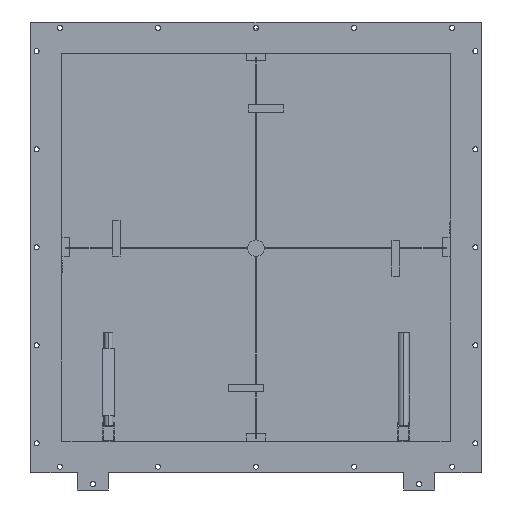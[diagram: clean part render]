
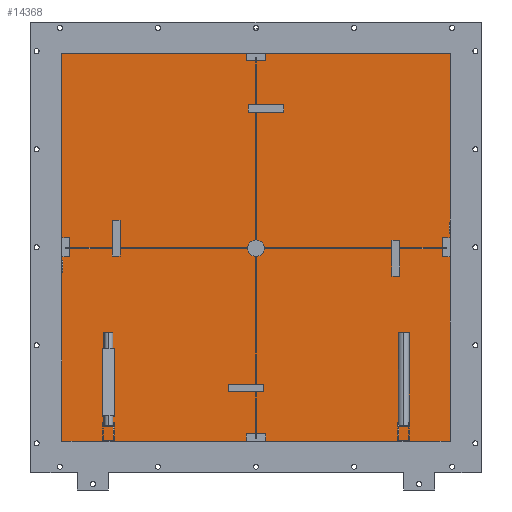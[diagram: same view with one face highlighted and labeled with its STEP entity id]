
A CAD part, front view. The second image highlights one B-rep face of the part: STEP entity #14368.
In plain terms, the highlighted planar face has unit normal (0, -1, 0).
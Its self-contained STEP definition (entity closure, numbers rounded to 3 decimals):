
#2646=DIRECTION('',(0.,0.,1.));
#2647=VECTOR('',#2646,1036.);
#2648=CARTESIAN_POINT('',(518.,70.,-520.5));
#2649=LINE('',#2648,#2647);
#2654=CARTESIAN_POINT('',(0.,70.,-2.5));
#2655=DIRECTION('',(0.,1.,0.));
#2656=DIRECTION('',(0.,0.,1.));
#2657=AXIS2_PLACEMENT_3D('',#2654,#2655,#2656);
#2659=CARTESIAN_POINT('',(0.,70.,-2.5));
#2660=DIRECTION('',(0.,1.,0.));
#2661=DIRECTION('',(0.,0.,-1.));
#2662=AXIS2_PLACEMENT_3D('',#2659,#2660,#2661);
#2664=DIRECTION('',(1.,0.,0.));
#2665=VECTOR('',#2664,20.);
#2666=CARTESIAN_POINT('',(-370.,70.,-22.5));
#2667=LINE('',#2666,#2665);
#2668=DIRECTION('',(0.,0.,1.));
#2669=VECTOR('',#2668,92.);
#2670=CARTESIAN_POINT('',(-350.,70.,-22.5));
#2671=LINE('',#2670,#2669);
#2672=DIRECTION('',(-1.,0.,0.));
#2673=VECTOR('',#2672,20.);
#2674=CARTESIAN_POINT('',(-350.,70.,69.5));
#2675=LINE('',#2674,#2673);
#2676=DIRECTION('',(0.,0.,-1.));
#2677=VECTOR('',#2676,92.);
#2678=CARTESIAN_POINT('',(-370.,70.,69.5));
#2679=LINE('',#2678,#2677);
#2680=DIRECTION('',(0.,0.,-1.));
#2681=VECTOR('',#2680,20.);
#2682=CARTESIAN_POINT('',(-20.,70.,367.5));
#2683=LINE('',#2682,#2681);
#2684=DIRECTION('',(1.,0.,0.));
#2685=VECTOR('',#2684,92.);
#2686=CARTESIAN_POINT('',(-20.,70.,347.5));
#2687=LINE('',#2686,#2685);
#2688=DIRECTION('',(0.,0.,1.));
#2689=VECTOR('',#2688,20.);
#2690=CARTESIAN_POINT('',(72.,70.,347.5));
#2691=LINE('',#2690,#2689);
#2692=DIRECTION('',(-1.,0.,0.));
#2693=VECTOR('',#2692,92.);
#2694=CARTESIAN_POINT('',(72.,70.,367.5));
#2695=LINE('',#2694,#2693);
#2696=DIRECTION('',(0.,0.,-1.));
#2697=VECTOR('',#2696,92.);
#2698=CARTESIAN_POINT('',(350.,70.,17.5));
#2699=LINE('',#2698,#2697);
#2700=DIRECTION('',(1.,0.,0.));
#2701=VECTOR('',#2700,20.);
#2702=CARTESIAN_POINT('',(350.,70.,-74.5));
#2703=LINE('',#2702,#2701);
#2704=DIRECTION('',(0.,0.,1.));
#2705=VECTOR('',#2704,92.);
#2706=CARTESIAN_POINT('',(370.,70.,-74.5));
#2707=LINE('',#2706,#2705);
#2708=DIRECTION('',(-1.,0.,0.));
#2709=VECTOR('',#2708,20.);
#2710=CARTESIAN_POINT('',(370.,70.,17.5));
#2711=LINE('',#2710,#2709);
#2712=DIRECTION('',(-1.,0.,0.));
#2713=VECTOR('',#2712,92.);
#2714=CARTESIAN_POINT('',(20.,70.,-352.5));
#2715=LINE('',#2714,#2713);
#2716=DIRECTION('',(0.,0.,-1.));
#2717=VECTOR('',#2716,20.);
#2718=CARTESIAN_POINT('',(-72.,70.,-352.5));
#2719=LINE('',#2718,#2717);
#2720=DIRECTION('',(1.,0.,0.));
#2721=VECTOR('',#2720,92.);
#2722=CARTESIAN_POINT('',(-72.,70.,-372.5));
#2723=LINE('',#2722,#2721);
#2724=DIRECTION('',(0.,0.,1.));
#2725=VECTOR('',#2724,20.);
#2726=CARTESIAN_POINT('',(20.,70.,-372.5));
#2727=LINE('',#2726,#2725);
#2728=DIRECTION('',(1.,0.,0.));
#2729=VECTOR('',#2728,1036.);
#2730=CARTESIAN_POINT('',(-518.,70.,-520.5));
#2731=LINE('',#2730,#2729);
#2736=DIRECTION('',(0.,0.,-1.));
#2737=VECTOR('',#2736,1036.);
#2738=CARTESIAN_POINT('',(-518.,70.,515.5));
#2739=LINE('',#2738,#2737);
#2744=DIRECTION('',(-1.,0.,0.));
#2745=VECTOR('',#2744,1036.);
#2746=CARTESIAN_POINT('',(518.,70.,515.5));
#2747=LINE('',#2746,#2745);
#10606=CARTESIAN_POINT('',(518.,70.,-520.5));
#10607=CARTESIAN_POINT('',(518.,70.,515.5));
#10608=VERTEX_POINT('',#10606);
#10609=VERTEX_POINT('',#10607);
#10610=CARTESIAN_POINT('',(-518.,70.,-520.5));
#10611=VERTEX_POINT('',#10610);
#10612=CARTESIAN_POINT('',(-518.,70.,515.5));
#10613=VERTEX_POINT('',#10612);
#10842=CARTESIAN_POINT('',(0.,70.,18.7));
#10843=CARTESIAN_POINT('',(0.,70.,-23.7));
#10844=VERTEX_POINT('',#10842);
#10845=VERTEX_POINT('',#10843);
#10880=CARTESIAN_POINT('',(-370.,70.,-22.5));
#10881=CARTESIAN_POINT('',(-350.,70.,-22.5));
#10882=VERTEX_POINT('',#10880);
#10883=VERTEX_POINT('',#10881);
#10884=CARTESIAN_POINT('',(-350.,70.,69.5));
#10885=VERTEX_POINT('',#10884);
#10886=CARTESIAN_POINT('',(-370.,70.,69.5));
#10887=VERTEX_POINT('',#10886);
#10888=CARTESIAN_POINT('',(-20.,70.,367.5));
#10889=CARTESIAN_POINT('',(-20.,70.,347.5));
#10890=VERTEX_POINT('',#10888);
#10891=VERTEX_POINT('',#10889);
#10892=CARTESIAN_POINT('',(72.,70.,347.5));
#10893=VERTEX_POINT('',#10892);
#10894=CARTESIAN_POINT('',(72.,70.,367.5));
#10895=VERTEX_POINT('',#10894);
#10896=CARTESIAN_POINT('',(350.,70.,17.5));
#10897=CARTESIAN_POINT('',(350.,70.,-74.5));
#10898=VERTEX_POINT('',#10896);
#10899=VERTEX_POINT('',#10897);
#10900=CARTESIAN_POINT('',(370.,70.,-74.5));
#10901=VERTEX_POINT('',#10900);
#10902=CARTESIAN_POINT('',(370.,70.,17.5));
#10903=VERTEX_POINT('',#10902);
#10904=CARTESIAN_POINT('',(20.,70.,-352.5));
#10905=CARTESIAN_POINT('',(-72.,70.,-352.5));
#10906=VERTEX_POINT('',#10904);
#10907=VERTEX_POINT('',#10905);
#10908=CARTESIAN_POINT('',(-72.,70.,-372.5));
#10909=VERTEX_POINT('',#10908);
#10910=CARTESIAN_POINT('',(20.,70.,-372.5));
#10911=VERTEX_POINT('',#10910);
#14308=CARTESIAN_POINT('',(0.,70.,0.));
#14309=DIRECTION('',(0.,1.,0.));
#14310=DIRECTION('',(1.,0.,0.));
#14311=AXIS2_PLACEMENT_3D('',#14308,#14309,#14310);
#14312=PLANE('',#14311);
#14313=ORIENTED_EDGE('',*,*,#14298,.F.);
#14315=ORIENTED_EDGE('',*,*,#14314,.F.);
#14317=ORIENTED_EDGE('',*,*,#14316,.F.);
#14319=ORIENTED_EDGE('',*,*,#14318,.F.);
#14320=EDGE_LOOP('',(#14313,#14315,#14317,#14319));
#14321=FACE_OUTER_BOUND('',#14320,.F.);
#14323=ORIENTED_EDGE('',*,*,#14322,.F.);
#14325=ORIENTED_EDGE('',*,*,#14324,.F.);
#14326=EDGE_LOOP('',(#14323,#14325));
#14327=FACE_BOUND('',#14326,.F.);
#14329=ORIENTED_EDGE('',*,*,#14328,.T.);
#14331=ORIENTED_EDGE('',*,*,#14330,.T.);
#14333=ORIENTED_EDGE('',*,*,#14332,.T.);
#14335=ORIENTED_EDGE('',*,*,#14334,.T.);
#14336=EDGE_LOOP('',(#14329,#14331,#14333,#14335));
#14337=FACE_BOUND('',#14336,.F.);
#14339=ORIENTED_EDGE('',*,*,#14338,.T.);
#14341=ORIENTED_EDGE('',*,*,#14340,.T.);
#14343=ORIENTED_EDGE('',*,*,#14342,.T.);
#14345=ORIENTED_EDGE('',*,*,#14344,.T.);
#14346=EDGE_LOOP('',(#14339,#14341,#14343,#14345));
#14347=FACE_BOUND('',#14346,.F.);
#14349=ORIENTED_EDGE('',*,*,#14348,.T.);
#14351=ORIENTED_EDGE('',*,*,#14350,.T.);
#14353=ORIENTED_EDGE('',*,*,#14352,.T.);
#14355=ORIENTED_EDGE('',*,*,#14354,.T.);
#14356=EDGE_LOOP('',(#14349,#14351,#14353,#14355));
#14357=FACE_BOUND('',#14356,.F.);
#14359=ORIENTED_EDGE('',*,*,#14358,.T.);
#14361=ORIENTED_EDGE('',*,*,#14360,.T.);
#14363=ORIENTED_EDGE('',*,*,#14362,.T.);
#14365=ORIENTED_EDGE('',*,*,#14364,.T.);
#14366=EDGE_LOOP('',(#14359,#14361,#14363,#14365));
#14367=FACE_BOUND('',#14366,.F.);
#2658=CIRCLE('',#2657,21.2);
#2663=CIRCLE('',#2662,21.2);
#14298=EDGE_CURVE('',#10608,#10609,#2649,.T.);
#14314=EDGE_CURVE('',#10611,#10608,#2731,.T.);
#14316=EDGE_CURVE('',#10613,#10611,#2739,.T.);
#14318=EDGE_CURVE('',#10609,#10613,#2747,.T.);
#14322=EDGE_CURVE('',#10844,#10845,#2658,.T.);
#14324=EDGE_CURVE('',#10845,#10844,#2663,.T.);
#14328=EDGE_CURVE('',#10882,#10883,#2667,.T.);
#14330=EDGE_CURVE('',#10883,#10885,#2671,.T.);
#14332=EDGE_CURVE('',#10885,#10887,#2675,.T.);
#14334=EDGE_CURVE('',#10887,#10882,#2679,.T.);
#14338=EDGE_CURVE('',#10890,#10891,#2683,.T.);
#14340=EDGE_CURVE('',#10891,#10893,#2687,.T.);
#14342=EDGE_CURVE('',#10893,#10895,#2691,.T.);
#14344=EDGE_CURVE('',#10895,#10890,#2695,.T.);
#14348=EDGE_CURVE('',#10898,#10899,#2699,.T.);
#14350=EDGE_CURVE('',#10899,#10901,#2703,.T.);
#14352=EDGE_CURVE('',#10901,#10903,#2707,.T.);
#14354=EDGE_CURVE('',#10903,#10898,#2711,.T.);
#14358=EDGE_CURVE('',#10906,#10907,#2715,.T.);
#14360=EDGE_CURVE('',#10907,#10909,#2719,.T.);
#14362=EDGE_CURVE('',#10909,#10911,#2723,.T.);
#14364=EDGE_CURVE('',#10911,#10906,#2727,.T.);
#14368=ADVANCED_FACE('',(#14321,#14327,#14337,#14347,#14357,#14367),#14312,.F.);
